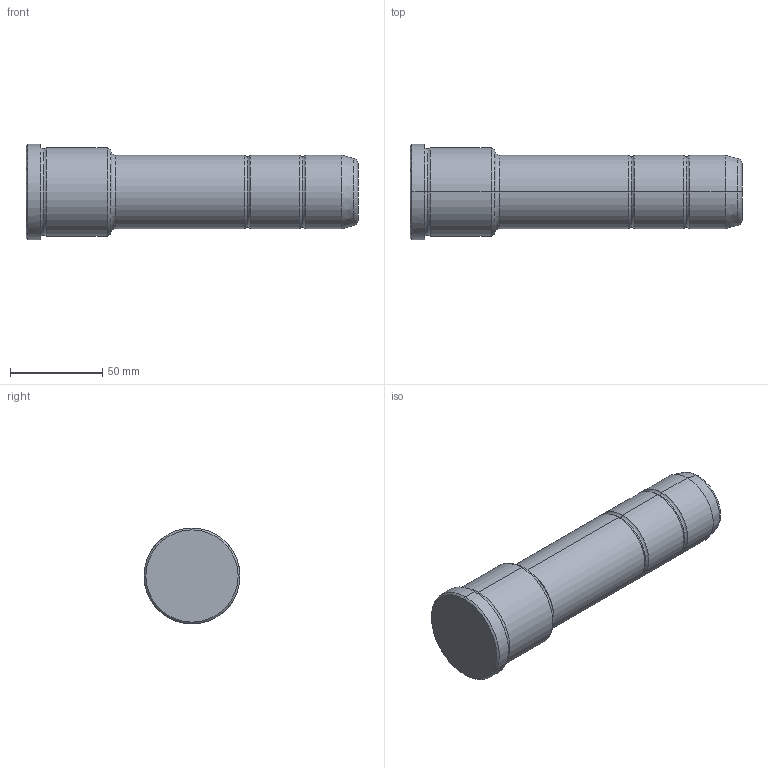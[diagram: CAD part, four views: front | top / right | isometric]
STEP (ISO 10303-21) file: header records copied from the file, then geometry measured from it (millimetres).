
FILE_DESCRIPTION(('CATIA V5 STEP Exchange'),'2;1');
FILE_NAME('C:\Users\Utente\Desktop\IO LAVORO\3D X SITO CF\X SITO\PLASTICA\351\351-40X46X180.stp','2021-10-28T18:35:40+00:00',('none'),('none'),'CATIA Version 5 Release 20 GA (IN-10)','CATIA V5 STEP AP203','none');
FILE_SCHEMA(('CONFIG_CONTROL_DESIGN'));
Length unit declared in the file: millimetre
Products named in the file (1): 351-40X46X180
Bounding box: 180 x 52 x 52 mm (x, y, z)
Volume: 251958.4 mm3; surface area: 27571.5 mm2
Topology: 1 solids, 1 shells, 36 faces, 102 edges, 70 vertices
Faces by surface type: torus 16, cylinder 10, cone 6, plane 4
Entity records: 1292 total; most frequent: CARTESIAN_POINT 321, ORIENTED_EDGE 204, DIRECTION 166, AXIS2_PLACEMENT_3D 115, EDGE_CURVE 102, CIRCLE 78, VERTEX_POINT 70, EDGE_LOOP 38
